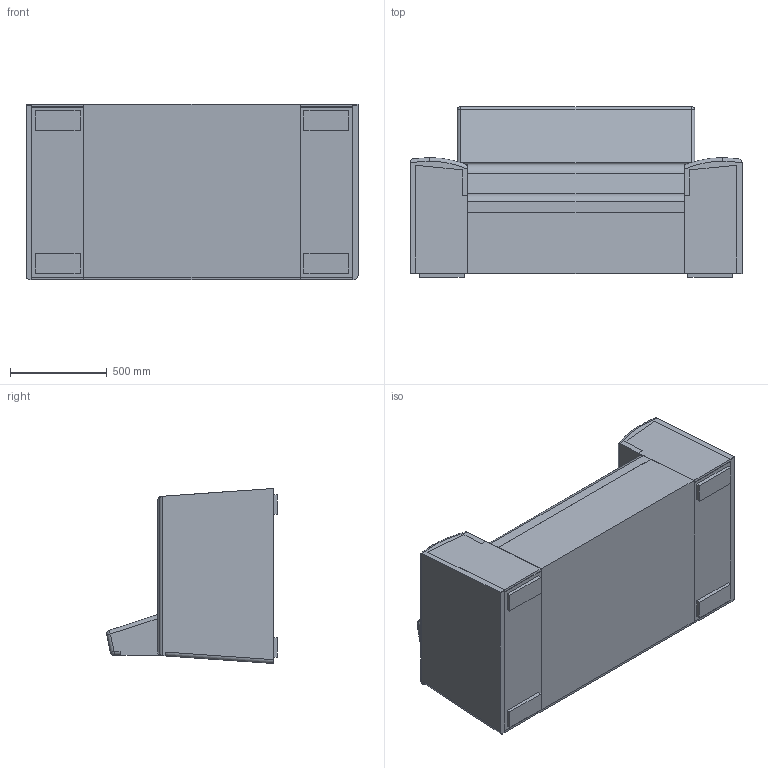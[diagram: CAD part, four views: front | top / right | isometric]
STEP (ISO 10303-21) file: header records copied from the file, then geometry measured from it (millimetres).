
FILE_DESCRIPTION (( 'STEP AP203' ), '1' );
FILE_NAME ('Rubus Double Seat Anti-stash.STEP', '2022-07-25T07:35:21', ( '' ), ( '' ), 'SwSTEP 2.0', 'SolidWorks 2022', '' );
FILE_SCHEMA (( 'CONFIG_CONTROL_DESIGN' ));
Length unit declared in the file: millimetre
Products named in the file (1): Rubus Double Seat Anti-stash
Bounding box: 1720 x 885.42 x 906.92 mm (x, y, z)
Volume: 229585891.2 mm3; surface area: 15118864.3 mm2
Topology: 7 solids, 7 shells, 171 faces, 467 edges, 296 vertices
Faces by surface type: plane 139, cylinder 22, bspline 6, sphere 4
Entity records: 6180 total; most frequent: CARTESIAN_POINT 1895, ORIENTED_EDGE 926, DIRECTION 789, EDGE_CURVE 463, LINE 397, VECTOR 397, VERTEX_POINT 296, AXIS2_PLACEMENT_3D 196
